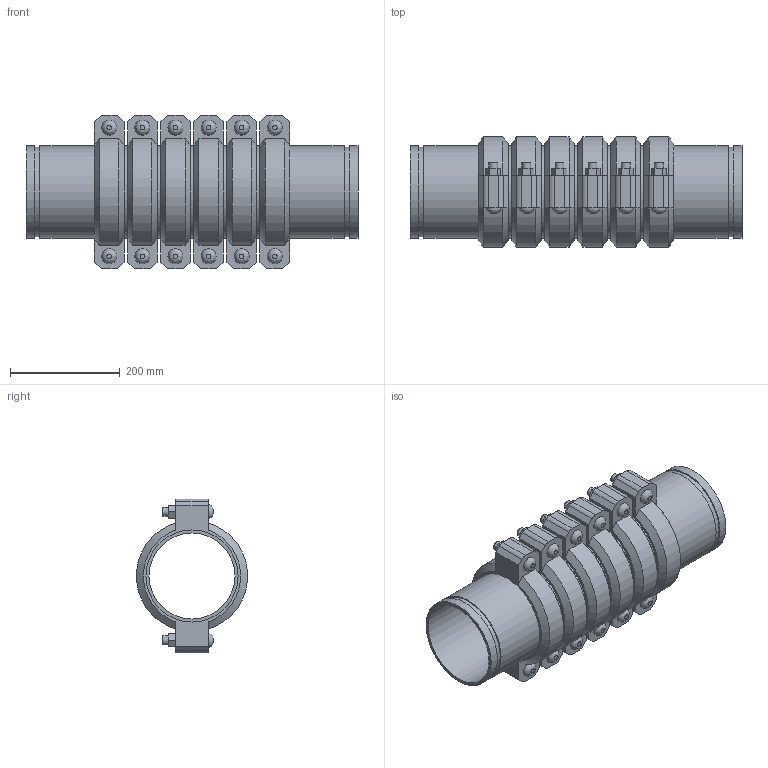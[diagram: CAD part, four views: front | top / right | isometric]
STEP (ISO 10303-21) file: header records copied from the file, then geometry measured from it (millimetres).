
FILE_DESCRIPTION(/* description */ ('VIC SS EXPANSION JOINT 6 COUPLINGS COMPRESSED STYLE 155P (OGS) (POTABLE WATER) ','CAx-IF Rec.Pracs.---Representation and Presentation of Product Manufacturing Information (PMI)---4.0---2014-10-13'),/* implementation_level */ '2;1');
FILE_NAME(/* name */ 'C:\Users\kkamble\AppData\Roaming\Autodesk\ApplicationPlugins\Victaulic.Temp\A518\Victaulic_SS_Expansion Joint_Compressed_6 Couplings_Style 155P (OGS)-Potable Water_6 Coup_Comp_6 (150).stp',/* time_stamp */ '2021-07-16T17:14:47+06:00',/* author */ ('kkamble'),/* organization */ ('Victaulic'),/* preprocessor_version */ 'ST-DEVELOPER v17.2',/* originating_system */ 'Autodesk Inventor 2019',/* authorisation */ '');
FILE_SCHEMA (('AP242_MANAGED_MODEL_BASED_3D_ENGINEERING_MIM_LF { 1 0 10303 442 1 1 4 }'));
Length unit declared in the file: inch
Products named in the file (4): 155-06.0; Nipple-06.0; Nipple-06.0_1; 075-06.0
Assembly tree (13 placements, depth 2):
  155-06.0
    Nipple-06.0  x2
    Nipple-06.0_1  x5
    075-06.0  x6
Bounding box: 606.3 x 202.46 x 281.18 mm (x, y, z)
Volume: 6071379.1 mm3; surface area: 1349196 mm2
Topology: 13 solids, 25 shells, 402 faces, 972 edges, 684 vertices
Faces by surface type: plane 246, cylinder 120, cone 24, bspline 12
Full cylindrical faces by diameter (mm): 15.875 x24, 17.424 x12, 157.15 x7, 163.957 x14, 168.275 x27
Entity records: 2705 total; most frequent: CARTESIAN_POINT 483, DIRECTION 451, ORIENTED_EDGE 374, EDGE_CURVE 187, AXIS2_PLACEMENT_3D 180, VERTEX_POINT 134, EDGE_LOOP 101, LINE 91
